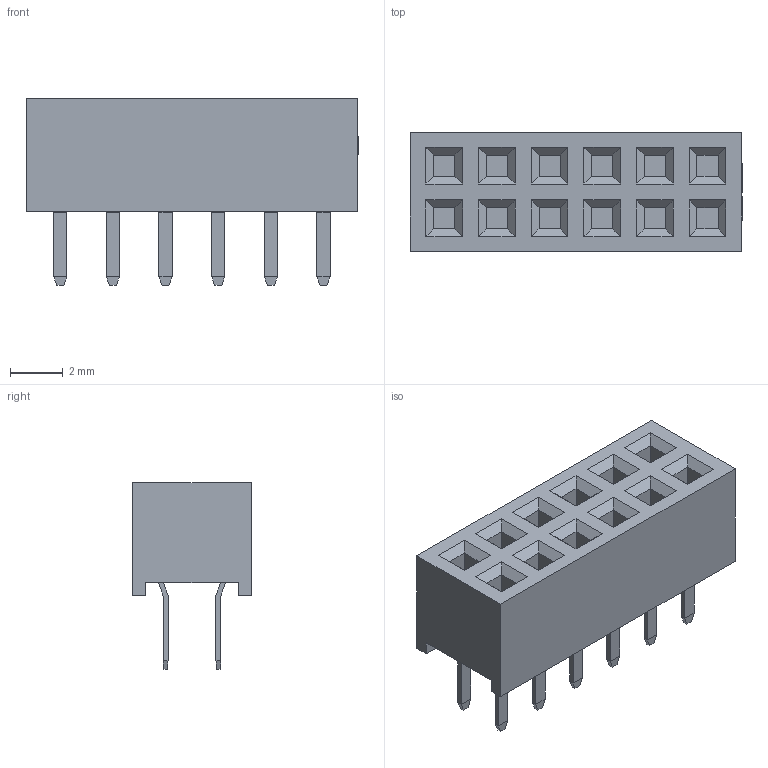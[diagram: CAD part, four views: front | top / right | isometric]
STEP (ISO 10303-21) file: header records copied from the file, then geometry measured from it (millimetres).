
FILE_DESCRIPTION(('Designed by EasyEDA Pro'),'2;1');
FILE_NAME('Open CASCADE Shape Model','2025-11-13T11:41:47',('Author'),( 'Open CASCADE'),'Open CASCADE STEP processor 7.6','Open CASCADE 7.8' ,'Unknown');
FILE_SCHEMA(('AUTOMOTIVE_DESIGN_CC2 { 1 2 10303 214 -1 1 5 4 }'));
Length unit declared in the file: millimetre
Products named in the file (4): PCBModel; sXgn-U1; HDR-TH_12P-P2.00-V-F-R2-C6-S2.00; SOLID
Assembly tree (3 placements, depth 4):
  PCBModel
    sXgn-U1
      HDR-TH_12P-P2.00-V-F-R2-C6-S2.00
        SOLID
Bounding box: 12.61 x 4.5 x 7.1 mm (x, y, z)
Volume: 200 mm3; surface area: 433.1 mm2
Topology: 1 solids, 1 shells, 533 faces, 1395 edges, 914 vertices
Faces by surface type: plane 421, bspline 112
Entity records: 21650 total; most frequent: CARTESIAN_POINT 4950, ORIENTED_EDGE 2790, DIRECTION 2017, EDGE_CURVE 1395, LINE 1167, VECTOR 1167, VERTEX_POINT 914, FACE_BOUND 583
